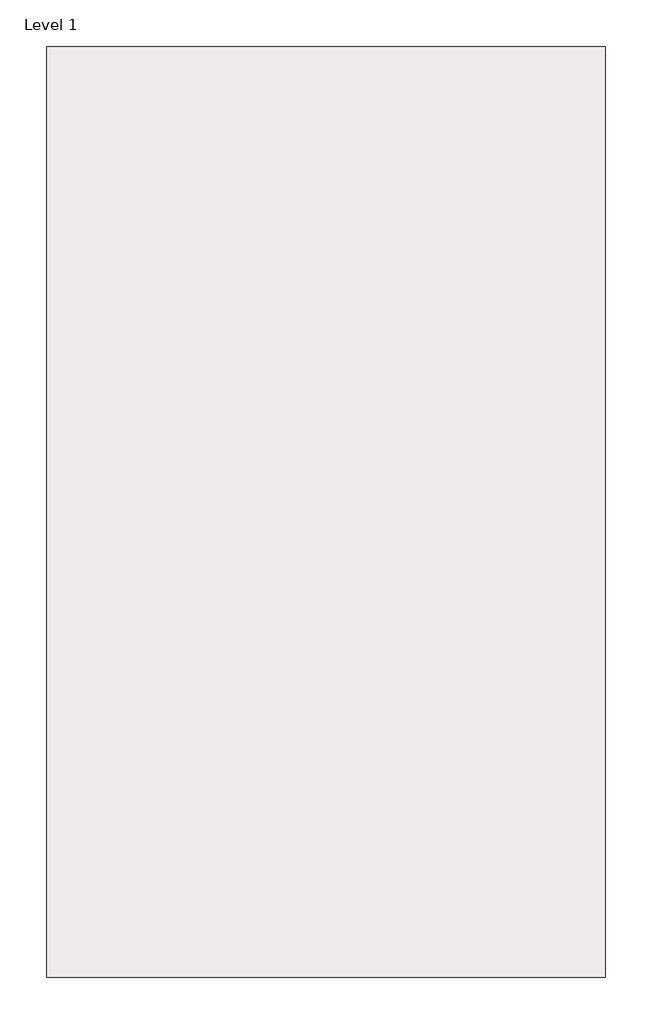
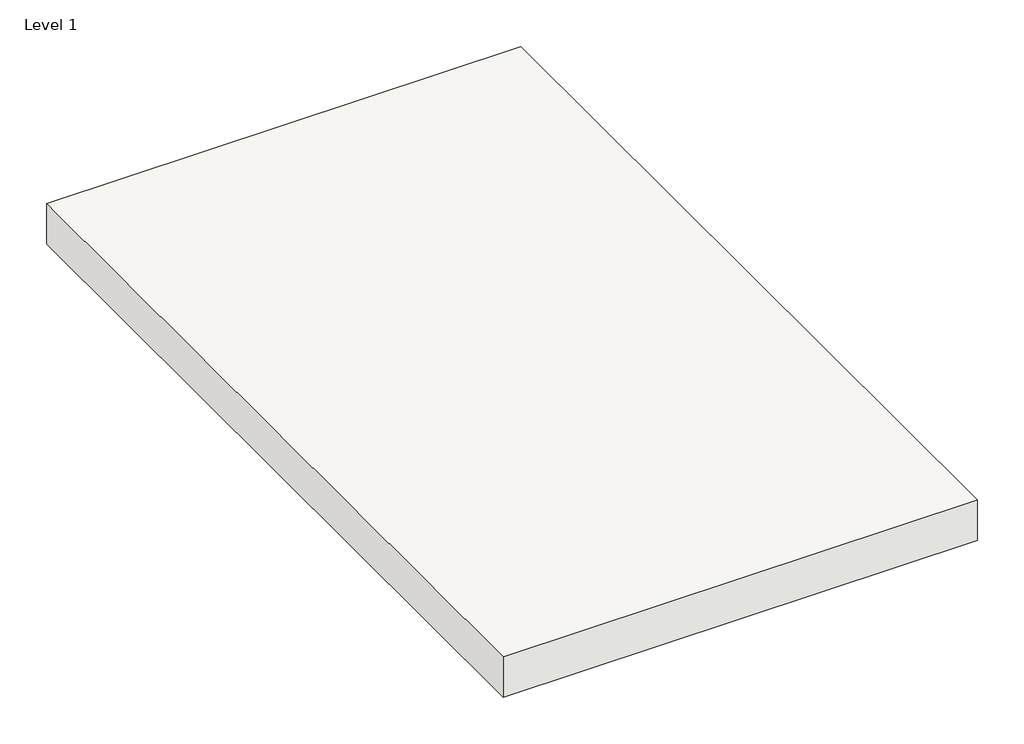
# One storey: 1 slab.
"""IFC4 building model written with IfcOpenShell, lengths in millimetres."""

import ifcopenshell
import ifcopenshell.guid

model = None  # the IFC model being written
_history = None  # IfcOwnerHistory: only IFC2X3 demands one
_inside = {}  # id of a spatial element -> (the spatial element, [elements in it])
_under = {}  # id of a project, library or spatial element -> (it, [spatial elements below it])
_declared = {}  # id of a project -> (the project, [libraries it declares])
_typed = {}  # id of a type object -> (the type object, [elements of that type])
_made_of = {}  # id of a material, layer set ... -> (it, [elements and type objects made of it])


def new_model(schema):
    """Start an empty IFC model of exactly this schema.

    Asked for "IFC4X3", IfcOpenShell would pick the latest addendum, in which some entities
    have other attributes; the version numbers below select the first issue.
    IFC2X3 requires an IfcOwnerHistory on every rooted entity: one is made here for all.
    """
    global model, _history
    if schema == "IFC4X3":
        model = ifcopenshell.file(schema_version=(4, 3, 0, 0))
    else:
        model = ifcopenshell.file(schema=schema)
    _inside.clear()
    _under.clear()
    _declared.clear()
    _typed.clear()
    _made_of.clear()
    _history = None
    if model.schema == "IFC2X3":
        org = make("IfcOrganization", Name="unknown")
        user = make(
            "IfcPersonAndOrganization",
            ThePerson=make("IfcPerson", FamilyName="unknown"),
            TheOrganization=org,
        )
        app = make(
            "IfcApplication",
            ApplicationDeveloper=org,
            Version="unknown",
            ApplicationFullName="unknown",
            ApplicationIdentifier="unknown",
        )
        _history = make(
            "IfcOwnerHistory",
            OwningUser=user,
            OwningApplication=app,
            ChangeAction="ADDED",
            CreationDate=0,
        )
    return model


def make(cls, **values):
    """One entity of the class cls with the attributes given. An attribute that is None is left unset."""
    return model.create_entity(
        cls, **{name: value for name, value in values.items() if value is not None}
    )


def rooted(cls, **values):
    """An entity with a GlobalId (a new one), such as an element, a storey or a relation."""
    return make(cls, GlobalId=ifcopenshell.guid.new(), OwnerHistory=_history, **values)


def si_unit(unit_type, name, prefix=None):
    """IfcSIUnit, for example si_unit("LENGTHUNIT", "METRE", prefix="MILLI")."""
    return make("IfcSIUnit", UnitType=unit_type, Prefix=prefix, Name=name)


def assignment(units):
    """IfcUnitAssignment: the units of a project."""
    return None if units is None else make("IfcUnitAssignment", Units=units)


def point(xyz):
    """IfcCartesianPoint."""
    return None if xyz is None else make("IfcCartesianPoint", Coordinates=xyz)


def direction(xyz):
    """IfcDirection."""
    return None if xyz is None else make("IfcDirection", DirectionRatios=xyz)


def frame(location, z_axis=None, x_axis=None):
    """IfcAxis2Placement3D, a coordinate frame: its origin and axes. An axis left out is left unset."""
    return make(
        "IfcAxis2Placement3D",
        Location=point(location),
        Axis=direction(z_axis),
        RefDirection=direction(x_axis),
    )


def origin():
    """The frame at (0, 0, 0) with its axes left unset."""
    return frame((0.0, 0.0, 0.0))


def place(relative_to, where):
    """IfcLocalPlacement: puts the frame where relative to a parent placement (None: the world)."""
    return make(
        "IfcLocalPlacement", PlacementRelTo=relative_to, RelativePlacement=where
    )


def context(
    kind, dimensions, precision=None, world=None, true_north=None, identifier=None
):
    """IfcGeometricRepresentationContext, for example the 3D "Model" context."""
    return make(
        "IfcGeometricRepresentationContext",
        ContextIdentifier=identifier,
        ContextType=kind,
        CoordinateSpaceDimension=dimensions,
        Precision=precision,
        WorldCoordinateSystem=world,
        TrueNorth=true_north,
    )


def project(units=None, contexts=None):
    """IfcProject with its units and contexts."""
    return rooted(
        "IfcProject",
        Name="project",
        RepresentationContexts=contexts,
        UnitsInContext=assignment(units),
    )


def spatial(cls, under=None, at=None, **own):
    """A site, building, storey or space (cls), placed at a placement, below another one or the project."""
    s = rooted(cls, ObjectPlacement=at, **own)
    if under is not None:
        _under.setdefault(under.id(), (under, []))[1].append(s)
    return s


def polyline(points):
    """IfcPolyline through the points."""
    return make("IfcPolyline", Points=[point(p) for p in points])


def outline(outer, holes=None, kind="AREA"):
    """IfcArbitraryClosedProfileDef: a profile drawn as a closed curve; with holes, ...WithVoids."""
    if holes is None:
        return make("IfcArbitraryClosedProfileDef", ProfileType=kind, OuterCurve=outer)
    return make(
        "IfcArbitraryProfileDefWithVoids",
        ProfileType=kind,
        OuterCurve=outer,
        InnerCurves=holes,
    )


def extrude(swept, where, along, depth):
    """IfcExtrudedAreaSolid: the profile swept, set in the frame where, extruded along a direction by depth."""
    return make(
        "IfcExtrudedAreaSolid",
        SweptArea=swept,
        Position=where,
        ExtrudedDirection=direction(along),
        Depth=depth,
    )


def shape(context_of_items, identifier, shape_type, items):
    """IfcShapeRepresentation: the items that make up one representation, for example the "Body"."""
    return make(
        "IfcShapeRepresentation",
        ContextOfItems=context_of_items,
        RepresentationIdentifier=identifier,
        RepresentationType=shape_type,
        Items=items,
    )


def made_of(thing, what):
    """Note that an element or type object is made of a material, layer set ...; save() writes the relation."""
    if what is not None:
        _made_of.setdefault(what.id(), (what, []))[1].append(thing)
    return thing


def element(
    cls,
    number,
    at=None,
    inside=None,
    cuts=None,
    type_object=None,
    material=None,
    context=None,
    identifier="Body",
    shape_type=None,
    held_by="IfcProductDefinitionShape",
    body=None,
    shapes=None,
    **own,
):
    """One element of the class cls, such as IfcWall. Its Tag is "e" and its number.

    at: its placement. inside: the storey or other place that contains it. cuts: it is an
    opening in that element (IfcRelVoidsElement). A single representation is given by context,
    identifier, shape_type and body (its items); several are given by shapes. held_by: the class
    of the entity that holds the representations. save() writes the other relations.
    """
    e = rooted(cls, Tag="e%d" % number, ObjectPlacement=at, **own)
    if body is not None:
        shapes = [shape(context, identifier, shape_type, body)]
    if shapes is not None:
        e.Representation = make(held_by, Representations=shapes)
    if inside is not None:
        _inside.setdefault(inside.id(), (inside, []))[1].append(e)
    if cuts is not None:
        rooted(
            "IfcRelVoidsElement", RelatingBuildingElement=cuts, RelatedOpeningElement=e
        )
    if type_object is not None:
        _typed.setdefault(type_object.id(), (type_object, []))[1].append(e)
    return made_of(e, material)


def aggregate(whole, parts):
    """IfcRelAggregates: a whole, such as a stair, and the parts it consists of."""
    return rooted("IfcRelAggregates", RelatingObject=whole, RelatedObjects=parts)


def save(model, path):
    """Write the relations noted so far, then the file.

    IfcRelAggregates (storeys below a building ...), IfcRelContainedInSpatialStructure (elements
    in a storey), IfcRelDefinesByType, IfcRelAssociatesMaterial and IfcRelDeclares: one each for
    every whole, place, type object, material and project.
    """
    for whole, parts in _under.values():
        aggregate(whole, parts)
    for where, things in _inside.values():
        rooted(
            "IfcRelContainedInSpatialStructure",
            RelatedElements=things,
            RelatingStructure=where,
        )
    for kind, things in _typed.values():
        rooted("IfcRelDefinesByType", RelatedObjects=things, RelatingType=kind)
    for what, things in _made_of.values():
        rooted("IfcRelAssociatesMaterial", RelatedObjects=things, RelatingMaterial=what)
    for by, libraries in _declared.values():
        rooted("IfcRelDeclares", RelatingContext=by, RelatedDefinitions=libraries)
    model.write(path)


model = new_model("IFC4")

# Units and contexts
model_context = context("Model", 3, world=origin())
ifc_project = project(units=[si_unit("LENGTHUNIT", "METRE", prefix="MILLI")], contexts=[model_context])

# Site, building, storey
site = spatial("IfcSite", under=ifc_project)
building = spatial("IfcBuilding", under=site)
storey = spatial("IfcBuildingStorey", under=building, Name="Level 1", Elevation=0.0)

# Slab
placement = place(None, origin())
element("IfcSlab", 1, ObjectType="WCP450A", at=placement, inside=storey, context=model_context, shape_type="SweptSolid", body=[
    extrude(outline(polyline([(2747.4282268, 3623.6822678), (2747.4282268, 575.6822678), (918.6282268, 575.6822678), (918.6282268, 3623.6822678), (2747.4282268, 3623.6822678)])), frame((0.0, 0.0, -165.1), z_axis=(0.0, 0.0, 1.0), x_axis=(1.0, 0.0, 0.0)), (0.0, 0.0, 1.0), 165.1),
])

save(model, "model.ifc")
